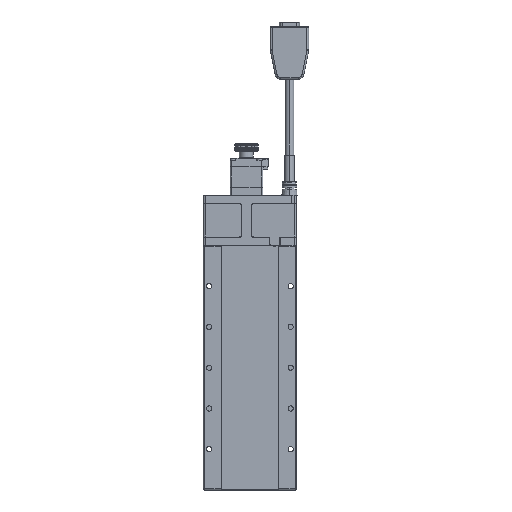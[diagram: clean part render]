
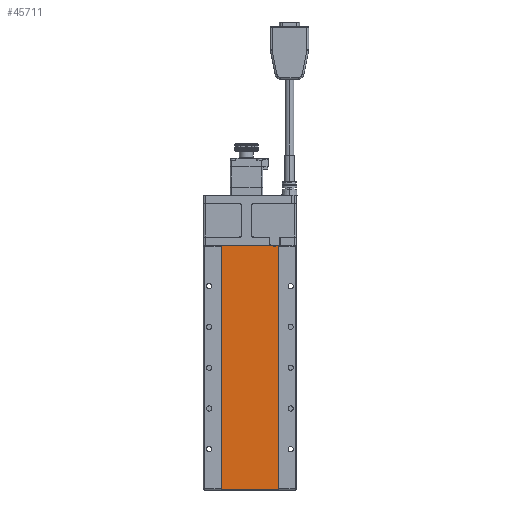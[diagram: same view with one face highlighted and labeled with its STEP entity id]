
A CAD part, front view. The second image highlights one B-rep face of the part: STEP entity #45711.
In plain terms, the highlighted planar face has unit normal (0, -1, 0).
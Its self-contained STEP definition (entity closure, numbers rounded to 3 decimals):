
#2022 = DIRECTION ( 'NONE',  ( 0., 0., -1. ) ) ;
#2327 = AXIS2_PLACEMENT_3D ( 'NONE', #6364, #87609, #28433 ) ;
#2624 = EDGE_CURVE ( 'NONE', #109015, #131910, #114657, .T. ) ;
#2928 = CARTESIAN_POINT ( 'NONE',  ( 22.3, 0.5, 209.8 ) ) ;
#4337 = VERTEX_POINT ( 'NONE', #34694 ) ;
#6364 = CARTESIAN_POINT ( 'NONE',  ( -24.3, 0.5, 209.8 ) ) ;
#7049 = AXIS2_PLACEMENT_3D ( 'NONE', #89425, #88675, #134244 ) ;
#10421 = EDGE_CURVE ( 'NONE', #4337, #79826, #37317, .T. ) ;
#12568 = CARTESIAN_POINT ( 'NONE',  ( 20.3, 0.5, 209.8 ) ) ;
#13297 = VERTEX_POINT ( 'NONE', #53653 ) ;
#14070 = CARTESIAN_POINT ( 'NONE',  ( 20.3, 0.5, 209.3 ) ) ;
#15260 = CARTESIAN_POINT ( 'NONE',  ( -23.8, 0.5, 0.7 ) ) ;
#16966 = PLANE ( 'NONE',  #2327 ) ;
#17066 = CIRCLE ( 'NONE', #87468, 0.5 ) ;
#17250 = DIRECTION ( 'NONE',  ( 0., 0., 1. ) ) ;
#18342 = DIRECTION ( 'NONE',  ( 0., 0., 1. ) ) ;
#19089 = CARTESIAN_POINT ( 'NONE',  ( 24.3, 0.5, 0.2 ) ) ;
#19904 = EDGE_CURVE ( 'NONE', #50588, #79826, #40104, .T. ) ;
#20213 = ORIENTED_EDGE ( 'NONE', *, *, #87378, .T. ) ;
#24077 = CIRCLE ( 'NONE', #7049, 0.5 ) ;
#24867 = ORIENTED_EDGE ( 'NONE', *, *, #81756, .F. ) ;
#26847 = VECTOR ( 'NONE', #2022, 1000. ) ;
#26865 = ORIENTED_EDGE ( 'NONE', *, *, #115562, .T. ) ;
#27090 = DIRECTION ( 'NONE',  ( -1., 0., 0. ) ) ;
#28433 = DIRECTION ( 'NONE',  ( -1., 0., 0. ) ) ;
#31845 = ORIENTED_EDGE ( 'NONE', *, *, #88614, .F. ) ;
#34694 = CARTESIAN_POINT ( 'NONE',  ( 23.8, 0.5, 209.8 ) ) ;
#35382 = CARTESIAN_POINT ( 'NONE',  ( 24.3, 0.5, 0.7 ) ) ;
#35644 = LINE ( 'NONE', #55829, #113722 ) ;
#37317 = LINE ( 'NONE', #83642, #55689 ) ;
#40104 = LINE ( 'NONE', #2928, #125902 ) ;
#40469 = VERTEX_POINT ( 'NONE', #65835 ) ;
#43422 = DIRECTION ( 'NONE',  ( 0., -1., 0. ) ) ;
#44916 = ORIENTED_EDGE ( 'NONE', *, *, #74400, .T. ) ;
#45711 = ADVANCED_FACE ( 'NONE', ( #99016 ), #16966, .F. ) ;
#48781 = CARTESIAN_POINT ( 'NONE',  ( -24.3, 0.5, 209.3 ) ) ;
#49235 = AXIS2_PLACEMENT_3D ( 'NONE', #79113, #43422, #88999 ) ;
#50251 = DIRECTION ( 'NONE',  ( 1., 0., 0. ) ) ;
#50588 = VERTEX_POINT ( 'NONE', #128523 ) ;
#50758 = VERTEX_POINT ( 'NONE', #65972 ) ;
#51119 = ORIENTED_EDGE ( 'NONE', *, *, #77701, .T. ) ;
#53653 = CARTESIAN_POINT ( 'NONE',  ( 20.3, 0.5, 209.8 ) ) ;
#55567 = EDGE_LOOP ( 'NONE', ( #31845, #24867, #44916, #133699, #93990, #51119, #20213, #137112, #116744, #26865, #113484, #119365 ) ) ;
#55689 = VECTOR ( 'NONE', #129968, 1000. ) ;
#55829 = CARTESIAN_POINT ( 'NONE',  ( -24.3, 0.5, 209.8 ) ) ;
#56690 = DIRECTION ( 'NONE',  ( 0., 0., -1. ) ) ;
#61670 = VERTEX_POINT ( 'NONE', #136149 ) ;
#65835 = CARTESIAN_POINT ( 'NONE',  ( 24.3, 0.5, 209.3 ) ) ;
#65972 = CARTESIAN_POINT ( 'NONE',  ( -23.8, 0.5, 0.2 ) ) ;
#71882 = CARTESIAN_POINT ( 'NONE',  ( -24.3, 0.5, 0.2 ) ) ;
#72271 = LINE ( 'NONE', #142864, #138328 ) ;
#74157 = DIRECTION ( 'NONE',  ( 0., -1., 0. ) ) ;
#74400 = EDGE_CURVE ( 'NONE', #13297, #61670, #35644, .T. ) ;
#77701 = EDGE_CURVE ( 'NONE', #97987, #50758, #17066, .T. ) ;
#78459 = VECTOR ( 'NONE', #56690, 1000. ) ;
#78802 = VERTEX_POINT ( 'NONE', #48781 ) ;
#79113 = CARTESIAN_POINT ( 'NONE',  ( 23.8, 0.5, 0.7 ) ) ;
#79826 = VERTEX_POINT ( 'NONE', #123124 ) ;
#81756 = EDGE_CURVE ( 'NONE', #13297, #140373, #93093, .T. ) ;
#83642 = CARTESIAN_POINT ( 'NONE',  ( -24.3, 0.5, 209.8 ) ) ;
#85175 = DIRECTION ( 'NONE',  ( -1., 0., 0. ) ) ;
#85541 = CARTESIAN_POINT ( 'NONE',  ( -23.8, 0.5, 209.3 ) ) ;
#86558 = CARTESIAN_POINT ( 'NONE',  ( 23.8, 0.5, 0.2 ) ) ;
#87378 = EDGE_CURVE ( 'NONE', #50758, #109015, #105488, .T. ) ;
#87468 = AXIS2_PLACEMENT_3D ( 'NONE', #15260, #132234, #85175 ) ;
#87609 = DIRECTION ( 'NONE',  ( 0., 1., 0. ) ) ;
#88614 = EDGE_CURVE ( 'NONE', #140373, #50588, #72271, .T. ) ;
#88675 = DIRECTION ( 'NONE',  ( 0., -1., 0. ) ) ;
#88999 = DIRECTION ( 'NONE',  ( -1., 0., 0. ) ) ;
#89425 = CARTESIAN_POINT ( 'NONE',  ( 23.8, 0.5, 209.3 ) ) ;
#89980 = CARTESIAN_POINT ( 'NONE',  ( -24.3, 0.5, 0.7 ) ) ;
#93093 = LINE ( 'NONE', #12568, #78459 ) ;
#93990 = ORIENTED_EDGE ( 'NONE', *, *, #97901, .T. ) ;
#94756 = CIRCLE ( 'NONE', #123802, 0.5 ) ;
#97901 = EDGE_CURVE ( 'NONE', #78802, #97987, #141736, .T. ) ;
#97987 = VERTEX_POINT ( 'NONE', #89980 ) ;
#99016 = FACE_OUTER_BOUND ( 'NONE', #55567, .T. ) ;
#103520 = EDGE_CURVE ( 'NONE', #131910, #40469, #136803, .T. ) ;
#105488 = LINE ( 'NONE', #149538, #108974 ) ;
#107671 = VECTOR ( 'NONE', #18342, 1000. ) ;
#108974 = VECTOR ( 'NONE', #138916, 1000. ) ;
#109015 = VERTEX_POINT ( 'NONE', #86558 ) ;
#113484 = ORIENTED_EDGE ( 'NONE', *, *, #10421, .T. ) ;
#113722 = VECTOR ( 'NONE', #147679, 1000. ) ;
#114657 = CIRCLE ( 'NONE', #49235, 0.5 ) ;
#115562 = EDGE_CURVE ( 'NONE', #40469, #4337, #24077, .T. ) ;
#116744 = ORIENTED_EDGE ( 'NONE', *, *, #103520, .T. ) ;
#116894 = EDGE_CURVE ( 'NONE', #61670, #78802, #94756, .T. ) ;
#119365 = ORIENTED_EDGE ( 'NONE', *, *, #19904, .F. ) ;
#123124 = CARTESIAN_POINT ( 'NONE',  ( 22.3, 0.5, 209.8 ) ) ;
#123802 = AXIS2_PLACEMENT_3D ( 'NONE', #85541, #74157, #27090 ) ;
#125902 = VECTOR ( 'NONE', #17250, 1000. ) ;
#128523 = CARTESIAN_POINT ( 'NONE',  ( 22.3, 0.5, 209.3 ) ) ;
#129968 = DIRECTION ( 'NONE',  ( -1., 0., 0. ) ) ;
#131910 = VERTEX_POINT ( 'NONE', #35382 ) ;
#132234 = DIRECTION ( 'NONE',  ( 0., -1., 0. ) ) ;
#133699 = ORIENTED_EDGE ( 'NONE', *, *, #116894, .T. ) ;
#134244 = DIRECTION ( 'NONE',  ( -1., 0., 0. ) ) ;
#136149 = CARTESIAN_POINT ( 'NONE',  ( -23.8, 0.5, 209.8 ) ) ;
#136803 = LINE ( 'NONE', #19089, #107671 ) ;
#137112 = ORIENTED_EDGE ( 'NONE', *, *, #2624, .T. ) ;
#138328 = VECTOR ( 'NONE', #50251, 1000. ) ;
#138916 = DIRECTION ( 'NONE',  ( 1., 0., 0. ) ) ;
#140373 = VERTEX_POINT ( 'NONE', #14070 ) ;
#141736 = LINE ( 'NONE', #71882, #26847 ) ;
#142864 = CARTESIAN_POINT ( 'NONE',  ( 20.3, 0.5, 209.3 ) ) ;
#147679 = DIRECTION ( 'NONE',  ( -1., 0., 0. ) ) ;
#149538 = CARTESIAN_POINT ( 'NONE',  ( -24.3, 0.5, 0.2 ) ) ;
